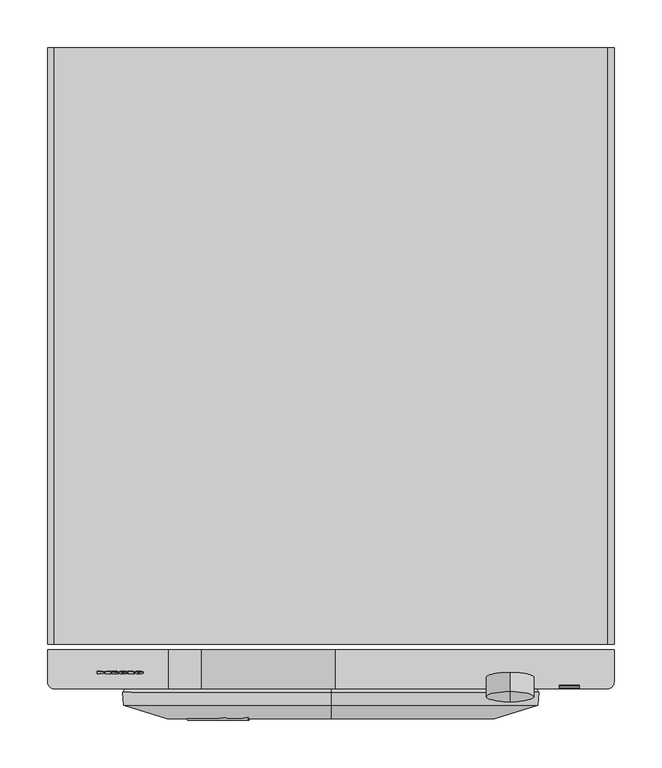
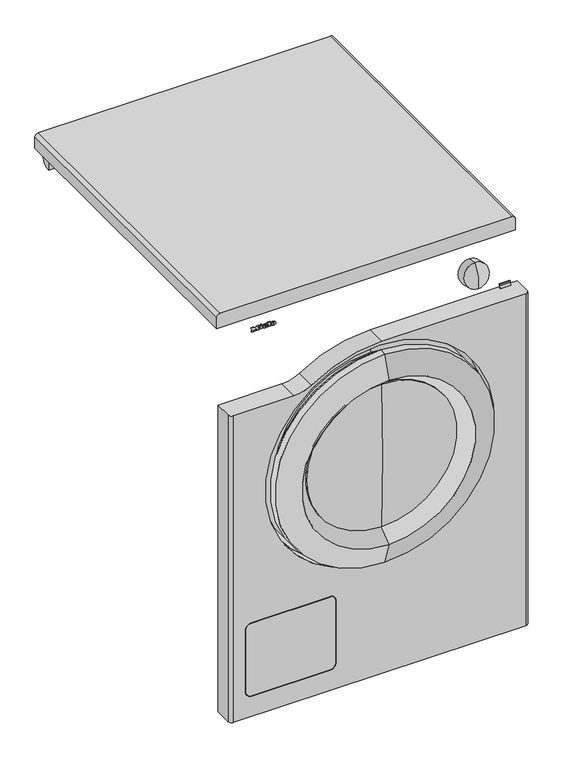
"""IFC4 building model written with IfcOpenShell, lengths in millimetres: proxy geometry, 11137260_RU_PWM507DV_SST : 51507451_RU_11137260_PWM507DV_SST."""

from ifc_helpers import new_model, si_unit, point, frame, frame_2d, origin, place, context, project, spatial, polyline, circle_curve, ellipse_curve, trimmed, segment, composite_curve, outline, extrude, source, transform, mapped, element, save
from ifc_brep_helpers import plane_surface, cylinder_surface, revolved_surface, extruded_surface, advanced_brep


def specialty_equipment_fb93250b(model_context):
    return source(origin(), model_context, "Body", "SolidModel", [
        advanced_brep(
        [(-202.64, -661.6785086, 811.5729364), (-202.64, -661.5105159, 812.3632796), (-197.288, -661.5105159, 812.3632796), (-206.6, -661.5105159, 812.3632796), (-204.4, -662.0727091, 809.7183685), (-197.424, -661.6785086, 811.5729364), (-199.84, -661.6785086, 811.5729364), (-201.744, -661.8647975, 810.6965161), (-202.64, -661.2976144, 813.3649028), (-202.64, -661.1163154, 814.2178475), (-201.272, -661.1163154, 814.2178475), (-201.272, -661.2976144, 813.3649028), (-202.64, -660.700361, 811.3650247), (-201.744, -660.8866499, 810.4886044), (-199.84, -660.700361, 811.3650247), (-197.424, -660.700361, 811.3650247), (-204.4, -661.0945615, 809.5104568), (-206.6, -660.5323683, 812.1553679), (-197.288, -660.5323683, 812.1553679), (-202.64, -660.5323683, 812.1553679), (-202.64, -660.3194668, 813.1569911), (-201.272, -660.3194668, 813.1569911), (-201.272, -660.1381678, 814.0099358), (-202.64, -660.1381678, 814.0099358)],
        [
            (0, 1),
            (1, 2),
            (2, 3, ellipse_curve(frame((-201.944, -661.5105159, 812.3632796), z_axis=(0.0, -0.9781476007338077, 0.2079116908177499), x_axis=(-1.0, 0.0, 0.0)), 4.656, 3.848)),
            (3, 4, circle_curve(frame((-203.5039564, -661.453964, 812.6293358), z_axis=(0.0, -0.9781476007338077, 0.2079116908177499), x_axis=(0.0, -0.2079116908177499, -0.9781476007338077)), 3.1079688)),
            (4, 5, circle_curve(frame((-202.0372064, -661.0148545, 814.6951835), z_axis=(0.0, -0.9781476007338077, 0.2079116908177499), x_axis=(0.0, -0.2079116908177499, -0.9781476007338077)), 5.6098607)),
            (5, 6),
            (6, 7, circle_curve(frame((-201.3529412, -661.5238223, 812.3006782), z_axis=(0.0, 0.9781476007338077, -0.2079116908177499), x_axis=(0.0, -0.2079116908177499, -0.9781476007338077)), 1.6859795)),
            (7, 0, circle_curve(frame((-201.744, -661.6785086, 811.5729364), z_axis=(0.0, 0.9781476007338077, -0.2079116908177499), x_axis=(0.0, -0.2079116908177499, -0.9781476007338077)), 0.896)),
            (8, 9),
            (9, 10, circle_curve(frame((-201.956, -661.1163154, 814.2178475), z_axis=(0.0, 0.9781476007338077, -0.2079116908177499), x_axis=(0.0, -0.2079116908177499, -0.9781476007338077)), 0.684)),
            (10, 11),
            (11, 8),
            (12, 13, circle_curve(frame((-201.744, -660.700361, 811.3650247), z_axis=(0.0, -0.9781476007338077, 0.2079116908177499), x_axis=(0.0, -0.2079116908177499, -0.9781476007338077)), 0.896)),
            (13, 14, circle_curve(frame((-201.3529412, -660.5456747, 812.0927665), z_axis=(0.0, -0.9781476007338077, 0.2079116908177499), x_axis=(0.0, -0.2079116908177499, -0.9781476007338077)), 1.6859795)),
            (14, 15),
            (15, 16, circle_curve(frame((-202.0372064, -660.0367069, 814.4872718), z_axis=(0.0, 0.9781476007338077, -0.2079116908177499), x_axis=(0.0, -0.2079116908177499, -0.9781476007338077)), 5.6098607)),
            (16, 17, circle_curve(frame((-203.5039564, -660.4758164, 812.4214241), z_axis=(0.0, 0.9781476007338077, -0.2079116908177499), x_axis=(0.0, -0.2079116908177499, -0.9781476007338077)), 3.1079688)),
            (17, 18, ellipse_curve(frame((-201.944, -660.5323683, 812.1553679), z_axis=(0.0, 0.9781476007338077, -0.2079116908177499), x_axis=(-1.0, 0.0, 0.0)), 4.656, 3.848)),
            (18, 19),
            (19, 12),
            (20, 21),
            (21, 22),
            (22, 23, circle_curve(frame((-201.956, -660.1381678, 814.0099358), z_axis=(0.0, -0.9781476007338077, 0.2079116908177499), x_axis=(0.0, -0.2079116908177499, -0.9781476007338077)), 0.684)),
            (23, 20),
            (0, 12),
            (19, 1),
            (18, 2),
            (5, 15),
            (14, 6),
            (17, 3),
            (13, 7),
            (16, 4),
            (8, 20),
            (23, 9),
            (22, 10),
            (21, 11),
        ],
        [
            plane_surface(frame((-202.64, -661.5105159, 812.3632796), z_axis=(0.0, -0.9781476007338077, 0.2079116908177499), x_axis=(0.0, 0.2079116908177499, 0.9781476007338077))),
            plane_surface(frame((-202.64, -660.5323683, 812.1553679), z_axis=(0.0, 0.9781476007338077, -0.2079116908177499), x_axis=(0.0, -0.2079116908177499, -0.9781476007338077))),
            plane_surface(frame((-202.64, -661.6785086, 811.5729364), z_axis=(1.0000000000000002, 0.0, 0.0), x_axis=(0.0, 0.978147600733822, -0.20791169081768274))),
            plane_surface(frame((-202.64, -661.5105159, 812.3632796), z_axis=(0.0, -0.20791169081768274, -0.978147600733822), x_axis=(0.0, 0.978147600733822, -0.20791169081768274))),
            plane_surface(frame((-197.424, -661.6785086, 811.5729364), z_axis=(0.0, 0.20791169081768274, 0.978147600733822), x_axis=(0.0, 0.978147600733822, -0.20791169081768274))),
            extruded_surface(trimmed(ellipse_curve(frame((-201.944, -659.5542207, 811.9474562), z_axis=(0.0, -0.9781476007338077, 0.2079116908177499), x_axis=(-1.0, 0.0, 0.0)), 4.656, 3.848), [point((-197.288, -659.5542207, 811.9474562))], [point((-206.6, -659.5542207, 811.9474562))], True, "CARTESIAN"), (0.0, -0.9781476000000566, 0.20791169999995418), 1.0000000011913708),
            revolved_surface(polyline([(-201.3529412, -660.896209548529, 810.4436296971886), (-201.3529412, -661.8743571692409, 810.6515413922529)]), (-201.3529412, -660.5456747, 812.0927665), (0.0, 0.9781476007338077, -0.2079116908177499)),
            revolved_surface(polyline([(-201.744, -660.8866498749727, 810.4886044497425), (-201.744, -661.8647974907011, 810.6965161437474)]), (-201.744, -660.700361, 811.3650247), (0.0, 0.9781476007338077, -0.2079116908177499)),
            cylinder_surface(frame((-203.5039564, -660.4758164, 812.4214241), z_axis=(0.0, -0.9781476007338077, 0.2079116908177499), x_axis=(0.0, -0.2079116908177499, -0.9781476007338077)), 3.1079688),
            cylinder_surface(frame((-202.0372064, -660.0367069, 814.4872718), z_axis=(0.0, -0.9781476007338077, 0.2079116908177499), x_axis=(0.0, -0.2079116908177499, -0.9781476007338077)), 5.6098607),
            plane_surface(frame((-202.64, -661.2976144, 813.3649028), z_axis=(1.0000000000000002, 0.0, 0.0), x_axis=(0.0, 0.9781476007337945, -0.20791169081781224))),
            revolved_surface(polyline([(-201.956, -660.2803793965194, 813.340882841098), (-201.956, -661.2585269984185, 813.5487945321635)]), (-201.956, -660.1381678, 814.0099358), (0.0, 0.9781476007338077, -0.2079116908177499)),
            plane_surface(frame((-201.272, -661.1163154, 814.2178475), z_axis=(-1.0000000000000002, 0.0, 0.0), x_axis=(0.0, 0.978147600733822, -0.20791169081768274))),
            plane_surface(frame((-201.272, -661.2976144, 813.3649028), z_axis=(0.0, 0.20791169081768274, 0.978147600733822), x_axis=(0.0, 0.978147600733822, -0.20791169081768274))),
        ],
        [
            (0, [[1, 2, 3, 4, 5, 6, 7, 8], [9, 10, 11, 12]]),
            (1, [[13, 14, 15, 16, 17, 18, 19, 20], [21, 22, 23, 24]]),
            (2, [[-1, 25, -20, 26]]),
            (3, [[-2, -26, -19, 27]]),
            (4, [[-6, 28, -15, 29]]),
            (5, [[-3, -27, -18, 30]]),
            (6, [[-7, -29, -14, 31]]),
            (7, [[-8, -31, -13, -25]]),
            (8, [[-4, -30, -17, 32]]),
            (9, [[-5, -32, -16, -28]]),
            (10, [[-9, 33, -24, 34]]),
            (11, [[-10, -34, -23, 35]]),
            (12, [[-11, -35, -22, 36]]),
            (13, [[-12, -36, -21, -33]]),
        ],
    ),
        advanced_brep(
        [(-219.336, -661.6785086, 811.5729364), (-219.336, -661.5105159, 812.3632796), (-213.984, -661.5105159, 812.3632796), (-223.296, -661.5105159, 812.3632796), (-221.096, -662.0727091, 809.7183685), (-214.12, -661.6785086, 811.5729364), (-216.536, -661.6785086, 811.5729364), (-218.44, -661.8647975, 810.6965161), (-219.336, -661.2976144, 813.3649028), (-219.336, -661.1163154, 814.2178475), (-217.968, -661.1163154, 814.2178475), (-217.968, -661.2976144, 813.3649028), (-219.336, -660.700361, 811.3650247), (-218.44, -660.8866499, 810.4886044), (-216.536, -660.700361, 811.3650247), (-214.12, -660.700361, 811.3650247), (-221.096, -661.0945615, 809.5104568), (-223.296, -660.5323683, 812.1553679), (-213.984, -660.5323683, 812.1553679), (-219.336, -660.5323683, 812.1553679), (-219.336, -660.3194668, 813.1569911), (-217.968, -660.3194668, 813.1569911), (-217.968, -660.1381678, 814.0099358), (-219.336, -660.1381678, 814.0099358)],
        [
            (0, 1),
            (1, 2),
            (2, 3, ellipse_curve(frame((-218.64, -661.5105159, 812.3632796), z_axis=(0.0, -0.9781476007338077, 0.2079116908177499), x_axis=(-1.0, 0.0, 0.0)), 4.656, 3.848)),
            (3, 4, circle_curve(frame((-220.1999564, -661.453964, 812.6293358), z_axis=(0.0, -0.9781476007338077, 0.2079116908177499), x_axis=(0.0, -0.2079116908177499, -0.9781476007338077)), 3.1079688)),
            (4, 5, circle_curve(frame((-218.7332064, -661.0148545, 814.6951835), z_axis=(0.0, -0.9781476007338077, 0.2079116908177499), x_axis=(0.0, -0.2079116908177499, -0.9781476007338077)), 5.6098607)),
            (5, 6),
            (6, 7, circle_curve(frame((-218.0489412, -661.5238223, 812.3006782), z_axis=(0.0, 0.9781476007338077, -0.2079116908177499), x_axis=(0.0, -0.2079116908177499, -0.9781476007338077)), 1.6859795)),
            (7, 0, circle_curve(frame((-218.44, -661.6785086, 811.5729364), z_axis=(0.0, 0.9781476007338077, -0.2079116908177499), x_axis=(0.0, -0.2079116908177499, -0.9781476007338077)), 0.896)),
            (8, 9),
            (9, 10, circle_curve(frame((-218.652, -661.1163154, 814.2178475), z_axis=(0.0, 0.9781476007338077, -0.2079116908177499), x_axis=(0.0, -0.2079116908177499, -0.9781476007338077)), 0.684)),
            (10, 11),
            (11, 8),
            (12, 13, circle_curve(frame((-218.44, -660.700361, 811.3650247), z_axis=(0.0, -0.9781476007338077, 0.2079116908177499), x_axis=(0.0, -0.2079116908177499, -0.9781476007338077)), 0.896)),
            (13, 14, circle_curve(frame((-218.0489412, -660.5456747, 812.0927665), z_axis=(0.0, -0.9781476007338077, 0.2079116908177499), x_axis=(0.0, -0.2079116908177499, -0.9781476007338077)), 1.6859795)),
            (14, 15),
            (15, 16, circle_curve(frame((-218.7332064, -660.0367069, 814.4872718), z_axis=(0.0, 0.9781476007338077, -0.2079116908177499), x_axis=(0.0, -0.2079116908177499, -0.9781476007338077)), 5.6098607)),
            (16, 17, circle_curve(frame((-220.1999564, -660.4758164, 812.4214241), z_axis=(0.0, 0.9781476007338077, -0.2079116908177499), x_axis=(0.0, -0.2079116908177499, -0.9781476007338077)), 3.1079688)),
            (17, 18, ellipse_curve(frame((-218.64, -660.5323683, 812.1553679), z_axis=(0.0, 0.9781476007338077, -0.2079116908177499), x_axis=(-1.0, 0.0, 0.0)), 4.656, 3.848)),
            (18, 19),
            (19, 12),
            (20, 21),
            (21, 22),
            (22, 23, circle_curve(frame((-218.652, -660.1381678, 814.0099358), z_axis=(0.0, -0.9781476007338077, 0.2079116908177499), x_axis=(0.0, -0.2079116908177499, -0.9781476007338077)), 0.684)),
            (23, 20),
            (0, 12),
            (19, 1),
            (18, 2),
            (5, 15),
            (14, 6),
            (17, 3),
            (13, 7),
            (16, 4),
            (8, 20),
            (23, 9),
            (22, 10),
            (21, 11),
        ],
        [
            plane_surface(frame((-219.336, -661.5105159, 812.3632796), z_axis=(0.0, -0.9781476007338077, 0.2079116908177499), x_axis=(0.0, 0.2079116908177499, 0.9781476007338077))),
            plane_surface(frame((-219.336, -660.5323683, 812.1553679), z_axis=(0.0, 0.9781476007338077, -0.2079116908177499), x_axis=(0.0, -0.2079116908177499, -0.9781476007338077))),
            plane_surface(frame((-219.336, -661.6785086, 811.5729364), z_axis=(1.0000000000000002, 0.0, 0.0), x_axis=(0.0, 0.978147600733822, -0.20791169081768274))),
            plane_surface(frame((-219.336, -661.5105159, 812.3632796), z_axis=(0.0, -0.20791169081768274, -0.978147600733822), x_axis=(0.0, 0.978147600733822, -0.20791169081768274))),
            plane_surface(frame((-214.12, -661.6785086, 811.5729364), z_axis=(0.0, 0.20791169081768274, 0.978147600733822), x_axis=(0.0, 0.978147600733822, -0.20791169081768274))),
            extruded_surface(trimmed(ellipse_curve(frame((-218.64, -659.5542207, 811.9474562), z_axis=(0.0, -0.9781476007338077, 0.2079116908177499), x_axis=(-1.0, 0.0, 0.0)), 4.656, 3.848), [point((-213.984, -659.5542207, 811.9474562))], [point((-223.296, -659.5542207, 811.9474562))], True, "CARTESIAN"), (0.0, -0.9781476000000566, 0.20791169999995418), 1.0000000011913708),
            revolved_surface(polyline([(-218.0489412, -660.896209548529, 810.4436296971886), (-218.0489412, -661.8743571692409, 810.6515413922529)]), (-218.0489412, -660.5456747, 812.0927665), (0.0, 0.9781476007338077, -0.2079116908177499)),
            revolved_surface(polyline([(-218.44, -660.8866498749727, 810.4886044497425), (-218.44, -661.8647974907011, 810.6965161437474)]), (-218.44, -660.700361, 811.3650247), (0.0, 0.9781476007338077, -0.2079116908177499)),
            cylinder_surface(frame((-220.1999564, -660.4758164, 812.4214241), z_axis=(0.0, -0.9781476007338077, 0.2079116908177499), x_axis=(0.0, -0.2079116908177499, -0.9781476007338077)), 3.1079688),
            cylinder_surface(frame((-218.7332064, -660.0367069, 814.4872718), z_axis=(0.0, -0.9781476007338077, 0.2079116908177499), x_axis=(0.0, -0.2079116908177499, -0.9781476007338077)), 5.6098607),
            plane_surface(frame((-219.336, -661.2976144, 813.3649028), z_axis=(1.0000000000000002, 0.0, 0.0), x_axis=(0.0, 0.9781476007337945, -0.20791169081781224))),
            revolved_surface(polyline([(-218.652, -660.2803793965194, 813.340882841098), (-218.652, -661.2585269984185, 813.5487945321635)]), (-218.652, -660.1381678, 814.0099358), (0.0, 0.9781476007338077, -0.2079116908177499)),
            plane_surface(frame((-217.968, -661.1163154, 814.2178475), z_axis=(-1.0000000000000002, 0.0, 0.0), x_axis=(0.0, 0.978147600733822, -0.20791169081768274))),
            plane_surface(frame((-217.968, -661.2976144, 813.3649028), z_axis=(0.0, 0.20791169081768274, 0.978147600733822), x_axis=(0.0, 0.978147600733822, -0.20791169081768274))),
        ],
        [
            (0, [[1, 2, 3, 4, 5, 6, 7, 8], [9, 10, 11, 12]]),
            (1, [[13, 14, 15, 16, 17, 18, 19, 20], [21, 22, 23, 24]]),
            (2, [[-1, 25, -20, 26]]),
            (3, [[-2, -26, -19, 27]]),
            (4, [[-6, 28, -15, 29]]),
            (5, [[-3, -27, -18, 30]]),
            (6, [[-7, -29, -14, 31]]),
            (7, [[-8, -31, -13, -25]]),
            (8, [[-4, -30, -17, 32]]),
            (9, [[-5, -32, -16, -28]]),
            (10, [[-9, 33, -24, 34]]),
            (11, [[-10, -34, -23, 35]]),
            (12, [[-11, -35, -22, 36]]),
            (13, [[-12, -36, -21, -33]]),
        ],
    ),
        extrude(outline(polyline([(0.0, 0.0), (-0.0109087, -2.9993294), (-1.4390416, -2.9920868), (-1.4315307, 0.0), (0.0, 0.0)])), frame((-228.08, -659.5294023, 816.873952), z_axis=(0.0, -0.9781476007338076, 0.20791169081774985), x_axis=(-0.42472021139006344, 0.18822758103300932, 0.8855411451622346)), (0.0, 0.0, 1.0), 1.0),
        extrude(outline(polyline([(-0.4933908, 2.4141097), (-2.7800844, -2.4601583), (-7.0459742, -0.4588766), (-7.4401146, -1.2990179), (-8.6568709, -0.728194), (-5.976037, 4.9862153), (-4.7592806, 4.4153913), (-5.1636142, 3.5535223), (-2.1941494, 2.16044), (-1.7898157, 3.0223091), (-0.4933908, 2.4141097)])), frame((-228.08, -659.5294023, 816.873952), z_axis=(0.0, -0.9781476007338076, 0.20791169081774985), x_axis=(-0.42472021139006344, 0.18822758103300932, 0.8855411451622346)), (0.0, 0.0, 1.0), 1.0),
        extrude(outline(polyline([(0.0, 0.0), (0.0, -1.3039999), (-5.504, -1.3039999), (-5.504, 5.352), (-6.488, 5.352), (-6.488, 6.696), (0.0, 6.696), (0.0, 5.352), (-0.96, 5.352), (-0.96, 0.0), (0.0, 0.0)])), frame((-213.536, -659.7023849, 816.0601332), z_axis=(0.0, -0.9781476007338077, 0.2079116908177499), x_axis=(-1.0, 0.0, 0.0)), (0.0, 0.0, 1.0), 1.0),
        extrude(outline(polyline([(0.0, 0.0), (0.0, -1.3039999), (-5.576, -1.3039999), (-7.92, 1.6960001), (-10.256, -1.3039999), (-15.128, -1.3039999), (-15.128, 0.0), (-14.112, 0.0), (-14.112, 5.352), (-15.128, 5.352), (-15.128, 6.696), (-8.744, 6.696), (-8.744, 5.352), (-9.728, 5.352), (-9.728, 1.8807777), (-6.136, 6.696), (-2.56, 1.9488753), (-2.56, 5.352), (-3.52, 5.352), (-3.52, 6.696), (0.0, 6.696), (0.0, 5.352), (-0.968, 5.352), (-0.968, 0.0), (0.0, 0.0)])), frame((-246.0, -659.7023849, 816.0601332), z_axis=(0.0, -0.9781476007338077, 0.2079116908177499), x_axis=(-1.0, 0.0, 0.0)), (0.0, 0.0, 1.0), 1.0),
        advanced_brep(
        [(-86.5, -711.2, 627.8223949), (-86.5, -708.2, 627.8223949), (-149.8223949, -711.2, 564.5), (-149.8223949, -708.2, 564.5)],
        [
            (0, 1, circle_curve(frame((-86.5, -709.7, 627.8223949), z_axis=(0.8660254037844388, 0.0, 0.49999999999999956), x_axis=(0.0, 1.0, 0.0)), 1.5)),
            (1, 0, circle_curve(frame((-86.5, -709.7, 627.8223949), z_axis=(0.8660254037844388, 0.0, 0.49999999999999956), x_axis=(0.0, 1.0, 0.0)), 1.5)),
            (2, 3, circle_curve(frame((-149.8223949, -709.7, 564.5), z_axis=(-0.5000000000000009, 0.0, -0.8660254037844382), x_axis=(0.0, 1.0, 0.0)), 1.5)),
            (3, 2, circle_curve(frame((-149.8223949, -709.7, 564.5), z_axis=(-0.5000000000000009, 0.0, -0.8660254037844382), x_axis=(0.0, 1.0, 0.0)), 1.5)),
            (3, 1, circle_curve(frame((0.0, -708.2, 478.0), z_axis=(0.0, 1.0, 0.0), x_axis=(-0.49999999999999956, 0.0, 0.8660254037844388)), 173.0)),
            (0, 2, circle_curve(frame((0.0, -711.2, 478.0), z_axis=(0.0, -1.0, 0.0), x_axis=(-0.49999999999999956, 0.0, 0.8660254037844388)), 173.0)),
        ],
        [
            plane_surface(frame((0.0, 1543.3738435, 478.0), z_axis=(0.8660254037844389, 0.0, 0.4999999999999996), x_axis=(-0.4999999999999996, 0.0, 0.8660254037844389))),
            plane_surface(frame((0.0, 1543.3738435, 478.0), z_axis=(-0.5000000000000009, 0.0, -0.8660254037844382), x_axis=(-0.8660254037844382, 0.0, 0.5000000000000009))),
            revolved_surface(trimmed(ellipse_curve(frame((-86.5, -709.7, 627.8223949), z_axis=(-0.8660254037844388, 0.0, -0.49999999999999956), x_axis=(0.0, 1.0, 0.0)), 1.5, 1.5), [point((-86.5, -708.2, 627.8223949))], [point((-86.5, -711.2, 627.8223949))], True, "CARTESIAN"), (0.0, 1543.3738435, 478.0), (0.0, 1.0, 0.0)),
            revolved_surface(trimmed(ellipse_curve(frame((-86.5, -709.7, 627.8223949), z_axis=(-0.8660254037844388, 0.0, -0.49999999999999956), x_axis=(0.0, 1.0, 0.0)), 1.5, 1.5), [point((-86.5, -711.2, 627.8223949))], [point((-86.5, -708.2, 627.8223949))], True, "CARTESIAN"), (0.0, 1543.3738435, 478.0), (0.0, 1.0, 0.0)),
        ],
        [
            (0, [[1, 2]]),
            (1, [[3, 4]]),
            (2, [[5, -1, 6, -4]]),
            (3, [[-6, -2, -5, -3]]),
        ],
    ),
        advanced_brep(
        [(0.0, -669.2, 328.0), (0.0, -669.2, 628.0), (0.0, -681.5454628, 628.0), (0.0, -681.5454628, 328.0), (0.0, -669.2, 314.0), (0.0, -669.2, 642.0), (0.0, -666.0, 302.5), (0.0, -666.0, 653.5), (0.0, -666.0, 270.7782663), (0.0, -666.0, 685.2217337), (0.0, -681.8, 257.8), (0.0, -681.8, 698.2), (0.0, -695.2157986, 259.0), (0.0, -695.2157986, 697.0), (0.0, -709.667863, 304.9), (0.0, -709.667863, 651.1)],
        [
            (0, 1, circle_curve(frame((0.0, -669.2, 478.0), z_axis=(0.0, 1.0, 0.0), x_axis=(0.0, 0.0, 1.0)), 150.0)),
            (1, 2),
            (2, 3, circle_curve(frame((0.0, -681.5454628, 478.0), z_axis=(0.0, -1.0, 0.0), x_axis=(0.0, 0.0, 1.0)), 150.0)),
            (3, 0),
            (1, 0, circle_curve(frame((0.0, -669.2, 478.0), z_axis=(0.0, 1.0, 0.0), x_axis=(0.0, 0.0, 1.0)), 150.0)),
            (3, 2, circle_curve(frame((0.0, -681.5454628, 478.0), z_axis=(0.0, -1.0, 0.0), x_axis=(0.0, 0.0, 1.0)), 150.0)),
            (4, 5, circle_curve(frame((0.0, -669.2, 478.0), z_axis=(0.0, 1.0, 0.0), x_axis=(0.0, 0.0, 1.0)), 164.0)),
            (5, 1),
            (0, 4),
            (5, 4, circle_curve(frame((0.0, -669.2, 478.0), z_axis=(0.0, 1.0, 0.0), x_axis=(0.0, 0.0, 1.0)), 164.0)),
            (6, 7, circle_curve(frame((0.0, -666.0, 478.0), z_axis=(0.0, 1.0, 0.0), x_axis=(0.0, 0.0, 1.0)), 175.5)),
            (7, 5),
            (4, 6),
            (7, 6, circle_curve(frame((0.0, -666.0, 478.0), z_axis=(0.0, 1.0, 0.0), x_axis=(0.0, 0.0, 1.0)), 175.5)),
            (8, 9, circle_curve(frame((0.0, -666.0, 478.0), z_axis=(0.0, 1.0, 0.0), x_axis=(0.0, 0.0, 1.0)), 207.2217337)),
            (9, 7),
            (6, 8),
            (9, 8, circle_curve(frame((0.0, -666.0, 478.0), z_axis=(0.0, 1.0, 0.0), x_axis=(0.0, 0.0, 1.0)), 207.2217337)),
            (10, 11, circle_curve(frame((0.0, -681.8, 478.0), z_axis=(0.0, 1.0, 0.0), x_axis=(0.0, 0.0, 1.0)), 220.2)),
            (11, 9),
            (8, 10),
            (11, 10, circle_curve(frame((0.0, -681.8, 478.0), z_axis=(0.0, 1.0, 0.0), x_axis=(0.0, 0.0, 1.0)), 220.2)),
            (12, 13, circle_curve(frame((0.0, -695.2157986, 478.0), z_axis=(0.0, 1.0, 0.0), x_axis=(0.0, 0.0, 1.0)), 219.0)),
            (13, 11),
            (10, 12),
            (13, 12, circle_curve(frame((0.0, -695.2157986, 478.0), z_axis=(0.0, 1.0, 0.0), x_axis=(0.0, 0.0, 1.0)), 219.0)),
            (14, 15, circle_curve(frame((0.0, -709.667863, 478.0), z_axis=(0.0, 1.0, 0.0), x_axis=(0.0, 0.0, 1.0)), 173.1)),
            (15, 13, circle_curve(frame((0.0, -130.6, 494.0), z_axis=(-1.0, 0.0, 0.0), x_axis=(0.0, 1.0, 0.0)), 600.0)),
            (12, 14, circle_curve(frame((0.0, -130.6, 462.0), z_axis=(-1.0, 0.0, 0.0), x_axis=(0.0, 1.0, 0.0)), 600.0)),
            (15, 14, circle_curve(frame((0.0, -709.667863, 478.0), z_axis=(0.0, 1.0, 0.0), x_axis=(0.0, 0.0, 1.0)), 173.1)),
            (2, 15),
            (14, 3),
        ],
        [
            revolved_surface(polyline([(0.0, -681.5454628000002, 628.0), (0.0, -669.2000000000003, 628.0)]), (0.0, 1543.3738435, 478.0), (0.0, -1.0, 0.0)),
            plane_surface(frame((0.0, -669.2, 478.0), z_axis=(0.0, 1.0, 0.0), x_axis=(0.0, 0.0, 1.0))),
            revolved_surface(polyline([(0.0, -669.2, 642.0), (0.0, -666.0, 653.5)]), (0.0, 1543.3738435, 478.0), (0.0, -1.0, 0.0)),
            plane_surface(frame((0.0, -666.0, 478.0), z_axis=(0.0, 1.0, 0.0), x_axis=(0.0, 0.0, 1.0))),
            revolved_surface(polyline([(0.0, -666.0, 685.2217337), (0.0, -681.8, 698.2)]), (0.0, 1543.3738435, 478.0), (0.0, -1.0, 0.0)),
            revolved_surface(polyline([(0.0, -681.8, 698.2), (0.0, -695.2157986, 697.0)]), (0.0, 1543.3738435, 478.0), (0.0, -1.0, 0.0)),
            revolved_surface(trimmed(ellipse_curve(frame((0.0, -130.6, 494.0), z_axis=(1.0, 0.0, 0.0), x_axis=(0.0, 1.0, 0.0)), 600.0, 600.0), [point((0.0, -695.2157986, 697.0))], [point((0.0, -709.667863, 651.1))], True, "CARTESIAN"), (0.0, 1543.3738435, 478.0), (0.0, -1.0, 0.0)),
            revolved_surface(polyline([(0.0, -709.667863, 651.1), (0.0, -681.5454628, 628.0)]), (0.0, 1543.3738435, 478.0), (0.0, -1.0, 0.0)),
        ],
        [
            (0, [[1, 2, 3, 4]]),
            (0, [[5, -4, 6, -2]]),
            (1, [[7, 8, -1, 9]]),
            (1, [[10, -9, -5, -8]]),
            (2, [[11, 12, -7, 13]]),
            (2, [[14, -13, -10, -12]]),
            (3, [[15, 16, -11, 17]]),
            (3, [[18, -17, -14, -16]]),
            (4, [[19, 20, -15, 21]]),
            (4, [[22, -21, -18, -20]]),
            (5, [[23, 24, -19, 25]]),
            (5, [[26, -25, -22, -24]]),
            (6, [[27, 28, -23, 29]]),
            (6, [[30, -29, -26, -28]]),
            (7, [[-3, 31, -27, 32]]),
            (7, [[-6, -32, -30, -31]]),
        ],
    ),
        advanced_brep(
        [(0.0, -682.3847498, 328.0), (0.0, -682.3847498, 628.0), (0.0, -685.2, 478.0), (0.0, -684.8865105, 328.0), (0.0, -684.8865105, 628.0), (0.0, -687.7, 478.0)],
        [
            (0, 1, circle_curve(frame((0.0, -682.3847498, 478.0), z_axis=(0.0, 1.0, 0.0), x_axis=(0.0, 0.0, 1.0)), 150.0)),
            (1, 2, circle_curve(frame((0.0, 3312.3, 478.0), z_axis=(1.0, 0.0, 0.0), x_axis=(0.0, 1.0, 0.0)), 3997.5)),
            (2, 0, circle_curve(frame((0.0, 3312.3, 478.0), z_axis=(1.0, 0.0, 0.0), x_axis=(0.0, 1.0, 0.0)), 3997.5)),
            (1, 0, circle_curve(frame((0.0, -682.3847498, 478.0), z_axis=(0.0, 1.0, 0.0), x_axis=(0.0, 0.0, 1.0)), 150.0)),
            (3, 4, circle_curve(frame((0.0, -684.8865105, 478.0), z_axis=(0.0, 1.0, 0.0), x_axis=(0.0, 0.0, 1.0)), 150.0)),
            (4, 1),
            (0, 3),
            (4, 3, circle_curve(frame((0.0, -684.8865105, 478.0), z_axis=(0.0, 1.0, 0.0), x_axis=(0.0, 0.0, 1.0)), 150.0)),
            (5, 4, circle_curve(frame((0.0, 3312.3, 478.0), z_axis=(-1.0, 0.0, 0.0), x_axis=(0.0, 1.0, 0.0)), 4000.0)),
            (3, 5, circle_curve(frame((0.0, 3312.3, 478.0), z_axis=(-1.0, 0.0, 0.0), x_axis=(0.0, 1.0, 0.0)), 4000.0)),
        ],
        [
            revolved_surface(trimmed(ellipse_curve(frame((0.0, 3312.3, 478.0), z_axis=(-1.0, 0.0, 0.0), x_axis=(0.0, 1.0, 0.0)), 3997.5, 3997.5), [point((0.0, -685.2, 478.0))], [point((0.0, -682.3847498, 628.0))], True, "CARTESIAN"), (0.0, 1543.3738435, 478.0), (0.0, -1.0, 0.0)),
            cylinder_surface(frame((0.0, 1543.3738435, 478.0), z_axis=(0.0, -1.0, 0.0), x_axis=(0.0, 0.0, 1.0)), 150.0),
            revolved_surface(trimmed(ellipse_curve(frame((0.0, 3312.3, 478.0), z_axis=(1.0, 0.0, 0.0), x_axis=(0.0, 1.0, 0.0)), 4000.0, 4000.0), [point((0.0, -684.8865105, 628.0))], [point((0.0, -687.7, 478.0))], True, "CARTESIAN"), (0.0, 1543.3738435, 478.0), (0.0, -1.0, 0.0)),
        ],
        [
            (0, [[1, 2, 3]]),
            (0, [[4, -3, -2]]),
            (1, [[5, 6, -1, 7]]),
            (1, [[8, -7, -4, -6]]),
            (2, [[9, -5, 10]]),
            (2, [[-10, -8, -9]]),
        ],
    ),
        extrude(outline(composite_curve([segment(polyline([(816.0, 298.0), (839.0, 298.0)]), True, "CONTINUOUS"), segment(trimmed(circle_curve(frame_2d((839.0, 291.0)), 7.0), [point((839.0, 298.0))], [point((846.0, 291.0))], False, "CARTESIAN"), True, "CONTINUOUS"), segment(polyline([(846.0, 291.0), (846.0, -291.0)]), True, "CONTINUOUS"), segment(trimmed(circle_curve(frame_2d((839.0, -291.0)), 7.0), [point((846.0, -291.0))], [point((839.0, -298.0))], False, "CARTESIAN"), True, "CONTINUOUS"), segment(polyline([(839.0, -298.0), (816.0, -298.0), (816.0, 298.0)]), True, "CONTINUOUS")], self_intersect=False)), frame((0.0, -631.0, 0.0), z_axis=(0.0, 1.0, 0.0), x_axis=(0.0, 0.0, 1.0)), (0.0, 0.0, 1.0), 627.0),
        extrude(outline(composite_curve([segment(polyline([(-13.6220839, 816.0), (-13.6220839, 807.1251898)]), True, "CONTINUOUS"), segment(trimmed(circle_curve(frame_2d((-36.0, 807.1251898)), 22.3779161), [point((-13.6220839, 807.1251898))], [point((-35.0, 784.7696284))], False, "CARTESIAN"), True, "CONTINUOUS"), segment(polyline([(-35.0, 784.7696284), (-35.0, 816.0), (-13.6220839, 816.0)]), True, "CONTINUOUS")], self_intersect=False)), frame((264.2, 0.0, 0.0), z_axis=(1.0, 0.0, 0.0), x_axis=(0.0, 1.0, 0.0)), (0.0, 0.0, 1.0), 24.0),
        extrude(outline(composite_curve([segment(polyline([(-35.0, 784.7696284), (-35.0, 816.0), (-13.6220839, 816.0), (-13.6220839, 807.1251898)]), True, "CONTINUOUS"), segment(trimmed(circle_curve(frame_2d((-36.0, 807.1251898)), 22.3779161), [point((-13.6220839, 807.1251898))], [point((-35.0, 784.7696284))], False, "CARTESIAN"), True, "CONTINUOUS")], self_intersect=False)), frame((-288.2, 0.0, 0.0), z_axis=(1.0, 0.0, 0.0), x_axis=(0.0, 1.0, 0.0)), (0.0, 0.0, 1.0), 24.0),
        advanced_brep(
        [(298.0, -637.0, 712.0), (298.0, -637.0, 13.5), (-298.0, -637.0, 13.5), (-298.0, -637.0, 659.0), (-170.4793435, -637.0, 659.0), (-135.8816811, -637.0, 669.4495268), (5.0, -637.0, 712.0), (0.0, -637.0, 628.0), (0.0, -637.0, 328.0), (-99.0, -637.0, 211.0), (-255.0, -637.0, 211.0), (-267.0, -637.0, 199.0), (-267.0, -637.0, 68.0), (-255.0, -637.0, 56.0), (-99.0, -637.0, 56.0), (-87.0, -637.0, 68.0), (-87.0, -637.0, 199.0), (-291.0, -678.0, 13.5), (291.0, -678.0, 13.5), (291.0, -678.0, 712.0), (5.0, -678.0, 712.0), (-135.8816811, -678.0, 669.4495268), (-170.4793435, -678.0, 659.0), (-291.0, -678.0, 659.0), (0.0, -678.0, 250.5), (0.0, -678.0, 705.5), (-255.0, -678.0, 211.0), (-99.0, -678.0, 211.0), (-87.0, -678.0, 199.0), (-87.0, -678.0, 68.0), (-99.0, -678.0, 56.0), (-255.0, -678.0, 56.0), (-267.0, -678.0, 68.0), (-267.0, -678.0, 199.0), (298.0, -671.0, 712.0), (-298.0, -671.0, 13.5), (-298.0, -671.0, 659.0), (298.0, -671.0, 13.5), (0.0, -653.2, 705.5), (0.0, -653.2, 250.5), (0.0, -645.7, 671.0), (0.0, -645.7, 698.0), (0.0, -645.7, 258.0), (0.0, -645.7, 285.0), (0.0, -638.7, 289.0414519), (0.0, -638.7, 666.9585481), (0.0, -638.7, 322.8), (0.0, -638.7, 633.2), (0.0, -648.5, 322.8), (0.0, -648.5, 633.2), (0.0, -648.5, 341.8), (0.0, -648.5, 614.2), (0.0, -646.0, 341.8), (0.0, -646.0, 614.2), (0.0, -646.0, 328.0), (0.0, -646.0, 628.0)],
        [
            (0, 1),
            (1, 2),
            (2, 3),
            (3, 4),
            (4, 5, circle_curve(frame((-170.4793435, -637.0, 721.5), z_axis=(0.0, -1.0, 0.0), x_axis=(1.0, 0.0, 0.0)), 62.5)),
            (5, 6, circle_curve(frame((5.0, -637.0, 457.5), z_axis=(0.0, 1.0, 0.0), x_axis=(1.0, 0.0, 0.0)), 254.5)),
            (6, 0),
            (7, 8, circle_curve(frame((0.0, -637.0, 478.0), z_axis=(0.0, -1.0, 0.0), x_axis=(0.0, 0.0, -1.0)), 150.0)),
            (8, 7, circle_curve(frame((0.0, -637.0, 478.0), z_axis=(0.0, -1.0, 0.0), x_axis=(0.0, 0.0, -1.0)), 150.0)),
            (9, 10),
            (10, 11, circle_curve(frame((-255.0, -637.0, 199.0), z_axis=(0.0, -1.0, 0.0), x_axis=(1.0, 0.0, 0.0)), 12.0)),
            (11, 12),
            (12, 13, circle_curve(frame((-255.0, -637.0, 68.0), z_axis=(0.0, -1.0, 0.0), x_axis=(1.0, 0.0, 0.0)), 12.0)),
            (13, 14),
            (14, 15, circle_curve(frame((-99.0, -637.0, 68.0), z_axis=(0.0, -1.0, 0.0), x_axis=(1.0, 0.0, 0.0)), 12.0)),
            (15, 16),
            (16, 9, circle_curve(frame((-99.0, -637.0, 199.0), z_axis=(0.0, -1.0, 0.0), x_axis=(1.0, 0.0, 0.0)), 12.0)),
            (17, 18),
            (18, 19),
            (19, 20),
            (20, 21, circle_curve(frame((5.0, -678.0, 457.5), z_axis=(0.0, -1.0, 0.0), x_axis=(1.0, 0.0, 0.0)), 254.5)),
            (21, 22, circle_curve(frame((-170.4793435, -678.0, 721.5), z_axis=(0.0, 1.0, 0.0), x_axis=(1.0, 0.0, 0.0)), 62.5)),
            (22, 23),
            (23, 17),
            (24, 25, circle_curve(frame((0.0, -678.0, 478.0), z_axis=(0.0, 1.0, 0.0), x_axis=(0.0, 0.0, -1.0)), 227.5)),
            (25, 24, circle_curve(frame((0.0, -678.0, 478.0), z_axis=(0.0, 1.0, 0.0), x_axis=(0.0, 0.0, -1.0)), 227.5)),
            (26, 27),
            (27, 28, circle_curve(frame((-99.0, -678.0, 199.0), z_axis=(0.0, 1.0, 0.0), x_axis=(1.0, 0.0, 0.0)), 12.0)),
            (28, 29),
            (29, 30, circle_curve(frame((-99.0, -678.0, 68.0), z_axis=(0.0, 1.0, 0.0), x_axis=(1.0, 0.0, 0.0)), 12.0)),
            (30, 31),
            (31, 32, circle_curve(frame((-255.0, -678.0, 68.0), z_axis=(0.0, 1.0, 0.0), x_axis=(1.0, 0.0, 0.0)), 12.0)),
            (32, 33),
            (33, 26, circle_curve(frame((-255.0, -678.0, 199.0), z_axis=(0.0, 1.0, 0.0), x_axis=(1.0, 0.0, 0.0)), 12.0)),
            (34, 0),
            (6, 20),
            (19, 34, circle_curve(frame((291.0, -671.0, 712.0), z_axis=(0.0, 0.0, 1.0), x_axis=(-1.0, 0.0, 0.0)), 7.0)),
            (2, 35),
            (35, 36),
            (36, 3),
            (1, 37),
            (37, 18, circle_curve(frame((291.0, -671.0, 13.5), z_axis=(0.0, 0.0, -1.0), x_axis=(-1.0, 0.0, 0.0)), 7.0)),
            (17, 35, circle_curve(frame((-291.0, -671.0, 13.5), z_axis=(0.0, 0.0, -1.0), x_axis=(-1.0, 0.0, 0.0)), 7.0)),
            (34, 37),
            (38, 25),
            (24, 39),
            (39, 38, circle_curve(frame((0.0, -653.2, 478.0), z_axis=(0.0, 1.0, 0.0), x_axis=(0.0, 0.0, -1.0)), 227.5)),
            (38, 39, circle_curve(frame((0.0, -653.2, 478.0), z_axis=(0.0, 1.0, 0.0), x_axis=(0.0, 0.0, -1.0)), 227.5)),
            (40, 41),
            (41, 42, circle_curve(frame((0.0, -645.7, 478.0), z_axis=(0.0, -1.0, 0.0), x_axis=(0.0, 0.0, -1.0)), 220.0)),
            (42, 43),
            (43, 40, circle_curve(frame((0.0, -645.7, 478.0), z_axis=(0.0, 1.0, 0.0), x_axis=(0.0, 0.0, -1.0)), 193.0)),
            (40, 43, circle_curve(frame((0.0, -645.7, 478.0), z_axis=(0.0, 1.0, 0.0), x_axis=(0.0, 0.0, -1.0)), 193.0)),
            (42, 41, circle_curve(frame((0.0, -645.7, 478.0), z_axis=(0.0, -1.0, 0.0), x_axis=(0.0, 0.0, -1.0)), 220.0)),
            (43, 44),
            (44, 45, circle_curve(frame((0.0, -638.7, 478.0), z_axis=(0.0, 1.0, 0.0), x_axis=(0.0, 0.0, -1.0)), 188.9585481)),
            (45, 40),
            (45, 44, circle_curve(frame((0.0, -638.7, 478.0), z_axis=(0.0, 1.0, 0.0), x_axis=(0.0, 0.0, -1.0)), 188.9585481)),
            (44, 46),
            (46, 47, circle_curve(frame((0.0, -638.7, 478.0), z_axis=(0.0, 1.0, 0.0), x_axis=(0.0, 0.0, -1.0)), 155.2)),
            (47, 45),
            (47, 46, circle_curve(frame((0.0, -638.7, 478.0), z_axis=(0.0, 1.0, 0.0), x_axis=(0.0, 0.0, -1.0)), 155.2)),
            (46, 48),
            (48, 49, circle_curve(frame((0.0, -648.5, 478.0), z_axis=(0.0, 1.0, 0.0), x_axis=(0.0, 0.0, -1.0)), 155.2)),
            (49, 47),
            (49, 48, circle_curve(frame((0.0, -648.5, 478.0), z_axis=(0.0, 1.0, 0.0), x_axis=(0.0, 0.0, -1.0)), 155.2)),
            (48, 50),
            (50, 51, circle_curve(frame((0.0, -648.5, 478.0), z_axis=(0.0, 1.0, 0.0), x_axis=(0.0, 0.0, -1.0)), 136.2)),
            (51, 49),
            (51, 50, circle_curve(frame((0.0, -648.5, 478.0), z_axis=(0.0, 1.0, 0.0), x_axis=(0.0, 0.0, -1.0)), 136.2)),
            (50, 52),
            (52, 53, circle_curve(frame((0.0, -646.0, 478.0), z_axis=(0.0, 1.0, 0.0), x_axis=(0.0, 0.0, -1.0)), 136.2)),
            (53, 51),
            (53, 52, circle_curve(frame((0.0, -646.0, 478.0), z_axis=(0.0, 1.0, 0.0), x_axis=(0.0, 0.0, -1.0)), 136.2)),
            (52, 54),
            (54, 55, circle_curve(frame((0.0, -646.0, 478.0), z_axis=(0.0, 1.0, 0.0), x_axis=(0.0, 0.0, -1.0)), 150.0)),
            (55, 53),
            (55, 54, circle_curve(frame((0.0, -646.0, 478.0), z_axis=(0.0, 1.0, 0.0), x_axis=(0.0, 0.0, -1.0)), 150.0)),
            (54, 8),
            (7, 55),
            (39, 42, circle_curve(frame((0.0, -653.2, 258.0), z_axis=(1.0, 0.0, 0.0), x_axis=(0.0, 1.0, 0.0)), 7.5)),
            (41, 38, circle_curve(frame((0.0, -653.2, 698.0), z_axis=(1.0, 0.0, 0.0), x_axis=(0.0, 1.0, 0.0)), 7.5)),
            (23, 36, circle_curve(frame((-291.0, -671.0, 659.0), z_axis=(0.0, 0.0, -1.0), x_axis=(-1.0, 0.0, 0.0)), 7.0)),
            (5, 21),
            (4, 22),
            (26, 10),
            (9, 27),
            (33, 11),
            (32, 12),
            (31, 13),
            (30, 14),
            (29, 15),
            (28, 16),
        ],
        [
            plane_surface(frame((-298.0, -637.0, 712.0), z_axis=(0.0, 1.0, 0.0), x_axis=(1.0, 0.0, 0.0))),
            plane_surface(frame((-298.0, -678.0, 712.0), z_axis=(0.0, -1.0, 0.0), x_axis=(-1.0, 0.0, 0.0))),
            plane_surface(frame((298.0, -678.0, 712.0), z_axis=(0.0, 0.0, 1.0), x_axis=(0.0, 1.0, 0.0))),
            plane_surface(frame((-298.0, -678.0, 712.0), z_axis=(-1.0, 0.0, 0.0), x_axis=(0.0, 1.0, 0.0))),
            plane_surface(frame((-298.0, -678.0, 13.5), z_axis=(0.0, 0.0, -1.0), x_axis=(0.0, 1.0, 0.0))),
            plane_surface(frame((298.0, -678.0, 13.5), z_axis=(1.0, 0.0, 0.0), x_axis=(0.0, 1.0, 0.0))),
            revolved_surface(polyline([(0.0, -653.2000000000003, 250.5), (0.0, -678.0, 250.5)]), (0.0, 1543.3738435, 478.0), (0.0, 1.0, 0.0)),
            plane_surface(frame((0.0, -645.7, 478.0), z_axis=(0.0, -1.0, 0.0), x_axis=(0.0, 0.0, -1.0))),
            revolved_surface(polyline([(0.0, -638.7, 289.0414519), (0.0, -645.7, 285.0)]), (0.0, 1543.3738435, 478.0), (0.0, 1.0, 0.0)),
            plane_surface(frame((0.0, -638.7, 478.0), z_axis=(0.0, -1.0, 0.0), x_axis=(0.0, 0.0, -1.0))),
            cylinder_surface(frame((0.0, 1543.3738435, 478.0), z_axis=(0.0, 1.0, 0.0), x_axis=(0.0, 0.0, -1.0)), 155.2),
            plane_surface(frame((0.0, -648.5, 478.0), z_axis=(0.0, -1.0, 0.0), x_axis=(0.0, 0.0, -1.0))),
            revolved_surface(polyline([(0.0, -646.0, 341.8), (0.0, -648.5, 341.8)]), (0.0, 1543.3738435, 478.0), (0.0, 1.0, 0.0)),
            plane_surface(frame((0.0, -646.0, 478.0), z_axis=(0.0, 1.0, 0.0), x_axis=(0.0, 0.0, -1.0))),
            revolved_surface(polyline([(0.0, -637.0, 328.0), (0.0, -646.0, 328.0)]), (0.0, 1543.3738435, 478.0), (0.0, 1.0, 0.0)),
            revolved_surface(trimmed(ellipse_curve(frame((0.0, -653.2, 258.0), z_axis=(-1.0, 0.0, 0.0), x_axis=(0.0, 1.0, 0.0)), 7.5, 7.5), [point((0.0, -645.7, 258.0))], [point((0.0, -653.2, 250.5))], True, "CARTESIAN"), (0.0, 1543.3738435, 478.0), (0.0, 1.0, 0.0)),
            cylinder_surface(frame((-291.0, -671.0, 712.0), z_axis=(0.0, 0.0, -1.0), x_axis=(-1.0, 0.0, 0.0)), 7.0),
            cylinder_surface(frame((291.0, -671.0, 712.0), z_axis=(0.0, 0.0, -1.0), x_axis=(-1.0, 0.0, 0.0)), 7.0),
            cylinder_surface(frame((5.0, -637.0, 457.5), z_axis=(0.0, 1.0, 0.0), x_axis=(1.0, 0.0, 0.0)), 254.5),
            revolved_surface(polyline([(-107.9793435, -678.0, 721.5), (-107.9793435, -637.0, 721.5)]), (-170.4793435, -637.0, 721.5), (0.0, -1.0, 0.0)),
            plane_surface(frame((-298.0, -678.0, 659.0), z_axis=(0.0, 0.0, 1.0), x_axis=(0.0, 1.0, 0.0))),
            plane_surface(frame((-99.0, -678.0, 211.0), z_axis=(0.0, 0.0, -1.0), x_axis=(0.0, 1.0, 0.0))),
            revolved_surface(polyline([(-243.0, -678.0, 199.0), (-243.0, -637.0, 199.0)]), (-255.0, -637.0, 199.0), (0.0, -1.0, 0.0)),
            plane_surface(frame((-267.0, -678.0, 199.0), z_axis=(1.0, 0.0, 0.0), x_axis=(0.0, 1.0, 0.0))),
            revolved_surface(polyline([(-243.0, -678.0, 68.0), (-243.0, -637.0, 68.0)]), (-255.0, -637.0, 68.0), (0.0, -1.0, 0.0)),
            plane_surface(frame((-255.0, -678.0, 56.0), z_axis=(0.0, 0.0, 1.0), x_axis=(0.0, 1.0, 0.0))),
            revolved_surface(polyline([(-87.0, -678.0, 68.0), (-87.0, -637.0, 68.0)]), (-99.0, -637.0, 68.0), (0.0, -1.0, 0.0)),
            plane_surface(frame((-87.0, -678.0, 68.0), z_axis=(-1.0, 0.0, 0.0), x_axis=(0.0, 1.0, 0.0))),
            revolved_surface(polyline([(-87.0, -678.0, 199.0), (-87.0, -637.0, 199.0)]), (-99.0, -637.0, 199.0), (0.0, -1.0, 0.0)),
        ],
        [
            (0, [[1, 2, 3, 4, 5, 6, 7], [8, 9], [10, 11, 12, 13, 14, 15, 16, 17]]),
            (1, [[18, 19, 20, 21, 22, 23, 24], [25, 26], [27, 28, 29, 30, 31, 32, 33, 34]]),
            (2, [[35, -7, 36, -20, 37]]),
            (3, [[38, 39, 40, -3]]),
            (4, [[-2, 41, 42, -18, 43, -38]]),
            (5, [[-1, -35, 44, -41]]),
            (6, [[45, -25, 46, 47]]),
            (6, [[-45, 48, -46, -26]]),
            (7, [[49, 50, 51, 52]]),
            (7, [[-49, 53, -51, 54]]),
            (8, [[-52, 55, 56, 57]]),
            (8, [[-53, -57, 58, -55]]),
            (9, [[-56, 59, 60, 61]]),
            (9, [[-58, -61, 62, -59]]),
            (10, [[-60, 63, 64, 65]]),
            (10, [[-62, -65, 66, -63]]),
            (11, [[-64, 67, 68, 69]]),
            (11, [[-66, -69, 70, -67]]),
            (12, [[-68, 71, 72, 73]]),
            (12, [[-70, -73, 74, -71]]),
            (13, [[-72, 75, 76, 77]]),
            (13, [[-74, -77, 78, -75]]),
            (14, [[-76, 79, -8, 80]]),
            (14, [[-78, -80, -9, -79]]),
            (15, [[-47, 81, -50, 82]]),
            (15, [[-48, -82, -54, -81]]),
            (16, [[-43, -24, 83, -39]]),
            (17, [[-19, -42, -44, -37]]),
            (18, [[84, -21, -36, -6]]),
            (19, [[-84, -5, 85, -22]]),
            (20, [[-85, -4, -40, -83, -23]]),
            (21, [[86, -10, 87, -27]]),
            (22, [[-86, -34, 88, -11]]),
            (23, [[-88, -33, 89, -12]]),
            (24, [[-89, -32, 90, -13]]),
            (25, [[-90, -31, 91, -14]]),
            (26, [[-91, -30, 92, -15]]),
            (27, [[-92, -29, 93, -16]]),
            (28, [[-87, -17, -93, -28]]),
        ],
    ),
        advanced_brep(
        [(-99.0, -637.0, 210.0), (-88.0, -637.0, 199.0), (-88.0, -637.0, 68.0), (-99.0, -637.0, 57.0), (-255.0, -637.0, 57.0), (-266.0, -637.0, 68.0), (-266.0, -637.0, 199.0), (-255.0, -637.0, 210.0), (-88.0, -678.0, 199.0), (-99.0, -678.0, 210.0), (-255.0, -678.0, 210.0), (-266.0, -678.0, 199.0), (-266.0, -678.0, 68.0), (-255.0, -678.0, 57.0), (-99.0, -678.0, 57.0), (-88.0, -678.0, 68.0)],
        [
            (0, 1, circle_curve(frame((-99.0, -637.0, 199.0), z_axis=(0.0, 1.0, 0.0), x_axis=(1.0, 0.0, 0.0)), 11.0)),
            (1, 2),
            (2, 3, circle_curve(frame((-99.0, -637.0, 68.0), z_axis=(0.0, 1.0, 0.0), x_axis=(1.0, 0.0, 0.0)), 11.0)),
            (3, 4),
            (4, 5, circle_curve(frame((-255.0, -637.0, 68.0), z_axis=(0.0, 1.0, 0.0), x_axis=(1.0, 0.0, 0.0)), 11.0)),
            (5, 6),
            (6, 7, circle_curve(frame((-255.0, -637.0, 199.0), z_axis=(0.0, 1.0, 0.0), x_axis=(1.0, 0.0, 0.0)), 11.0)),
            (7, 0),
            (8, 9, circle_curve(frame((-99.0, -678.0, 199.0), z_axis=(0.0, -1.0, 0.0), x_axis=(1.0, 0.0, 0.0)), 11.0)),
            (9, 10),
            (10, 11, circle_curve(frame((-255.0, -678.0, 199.0), z_axis=(0.0, -1.0, 0.0), x_axis=(1.0, 0.0, 0.0)), 11.0)),
            (11, 12),
            (12, 13, circle_curve(frame((-255.0, -678.0, 68.0), z_axis=(0.0, -1.0, 0.0), x_axis=(1.0, 0.0, 0.0)), 11.0)),
            (13, 14),
            (14, 15, circle_curve(frame((-99.0, -678.0, 68.0), z_axis=(0.0, -1.0, 0.0), x_axis=(1.0, 0.0, 0.0)), 11.0)),
            (15, 8),
            (8, 1),
            (0, 9),
            (15, 2),
            (14, 3),
            (13, 4),
            (12, 5),
            (11, 6),
            (10, 7),
        ],
        [
            plane_surface(frame((-298.0, -637.0, 712.0), z_axis=(0.0, 1.0, 0.0), x_axis=(1.0, 0.0, 0.0))),
            plane_surface(frame((-298.0, -678.0, 712.0), z_axis=(0.0, -1.0, 0.0), x_axis=(-1.0, 0.0, 0.0))),
            cylinder_surface(frame((-99.0, 0.0, 199.0), z_axis=(0.0, 1.0, 0.0), x_axis=(1.0, 0.0, 0.0)), 11.0),
            plane_surface(frame((-88.0, -678.0, 199.0), z_axis=(1.0, 0.0, 0.0), x_axis=(0.0, 1.0, 0.0))),
            cylinder_surface(frame((-99.0, 0.0, 68.0), z_axis=(0.0, 1.0, 0.0), x_axis=(1.0, 0.0, 0.0)), 11.0),
            plane_surface(frame((-99.0, -678.0, 57.0), z_axis=(0.0, 0.0, -1.0), x_axis=(0.0, 1.0, 0.0))),
            cylinder_surface(frame((-255.0, 0.0, 68.0), z_axis=(0.0, 1.0, 0.0), x_axis=(1.0, 0.0, 0.0)), 11.0),
            plane_surface(frame((-266.0, -678.0, 68.0), z_axis=(-1.0, 0.0, 0.0), x_axis=(0.0, 1.0, 0.0))),
            cylinder_surface(frame((-255.0, 0.0, 199.0), z_axis=(0.0, 1.0, 0.0), x_axis=(1.0, 0.0, 0.0)), 11.0),
            plane_surface(frame((-255.0, -678.0, 210.0), z_axis=(0.0, 0.0, 1.0), x_axis=(0.0, 1.0, 0.0))),
        ],
        [
            (0, [[1, 2, 3, 4, 5, 6, 7, 8]]),
            (1, [[9, 10, 11, 12, 13, 14, 15, 16]]),
            (2, [[17, -1, 18, -9]]),
            (3, [[-17, -16, 19, -2]]),
            (4, [[-19, -15, 20, -3]]),
            (5, [[-20, -14, 21, -4]]),
            (6, [[-21, -13, 22, -5]]),
            (7, [[-22, -12, 23, -6]]),
            (8, [[-23, -11, 24, -7]]),
            (9, [[-18, -8, -24, -10]]),
        ],
    ),
        advanced_brep(
        [(188.5, -666.0968325, 787.0), (188.5, -671.2946248, 762.54631), (188.5, -660.8990403, 811.45369), (188.5, -681.1294216, 815.7537903), (188.5, -691.5250061, 766.8464103), (188.5, -691.5250061, 792.4049251)],
        [
            (0, 1),
            (1, 2, circle_curve(frame((188.5, -666.0968325, 787.0), z_axis=(0.0, 0.9781476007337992, -0.2079116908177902), x_axis=(0.0, -0.20791169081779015, -0.978147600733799)), 25.0)),
            (2, 0),
            (2, 1, circle_curve(frame((188.5, -666.0968325, 787.0), z_axis=(0.0, 0.9781476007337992, -0.2079116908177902), x_axis=(0.0, -0.20791169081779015, -0.978147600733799)), 25.0)),
            (3, 4, circle_curve(frame((188.5, -686.3272138, 791.3001003), z_axis=(0.0, -0.9781476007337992, 0.2079116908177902), x_axis=(0.0, -0.20791169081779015, -0.978147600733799)), 25.0)),
            (4, 5),
            (5, 3),
            (4, 3, circle_curve(frame((188.5, -686.3272138, 791.3001003), z_axis=(0.0, -0.9781476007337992, 0.2079116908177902), x_axis=(0.0, -0.20791169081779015, -0.978147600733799)), 25.0)),
            (1, 4),
            (3, 2),
        ],
        [
            plane_surface(frame((188.5, -666.0968325, 787.0), z_axis=(0.0, 0.9781476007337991, -0.20791169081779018), x_axis=(0.0, -0.20791169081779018, -0.9781476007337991))),
            revolved_surface(polyline([(188.5, -691.5250061, 792.4049251), (188.5, -691.5250061, 766.8464103)]), (188.5, -691.5250061, 792.4049251), (0.0, 0.978147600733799, -0.20791169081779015)),
            cylinder_surface(frame((188.5, -691.5250061, 792.4049251), z_axis=(0.0, 0.978147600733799, -0.20791169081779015), x_axis=(0.0, -0.20791169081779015, -0.978147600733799)), 25.0),
        ],
        [
            (0, [[1, 2, 3]]),
            (0, [[-3, 4, -1]]),
            (1, [[5, 6, 7]]),
            (1, [[8, -7, -6]]),
            (2, [[-2, 9, -5, 10]]),
            (2, [[-4, -10, -8, -9]]),
        ],
    ),
        extrude(outline(polyline([(-675.9807127, 740.5), (-678.0253939, 740.5), (-676.9026757, 745.7819736), (-675.6352392, 748.5), (-674.2802602, 748.5), (-675.9807127, 740.5)])), frame((240.5, 0.0, 0.0), z_axis=(1.0, 0.0, 0.0), x_axis=(0.0, 1.0, 0.0)), (0.0, 0.0, 1.0), 21.0),
    ])


if __name__ == "__main__":
    model = new_model("IFC4")
    model_context = context("Model", 3, world=origin())
    ifc_project = project(units=[si_unit("LENGTHUNIT", "METRE", prefix="MILLI")], contexts=[model_context])
    site = spatial("IfcSite", under=ifc_project)
    building = spatial("IfcBuilding", under=site)
    placement = place(None, origin())
    specialty_equipment_shape = specialty_equipment_fb93250b(model_context)
    element("IfcBuildingElementProxy", 1, Name="11137260_RU_PWM507DV_SST : 51507451_RU_11137260_PWM507DV_SST", ObjectType="11137260_RU_PWM507DV_SST : 51507451_RU_11137260_PWM507DV_SST", at=placement, inside=building, context=model_context, shape_type="MappedRepresentation", body=[
        mapped(specialty_equipment_shape, transform((0.0, 0.0, 0.0), x_axis=(1.0, 0.0, 0.0), y_axis=(0.0, 1.0, 0.0), z_axis=(0.0, 0.0, 1.0))),
    ])
    save(model, "model.ifc")
